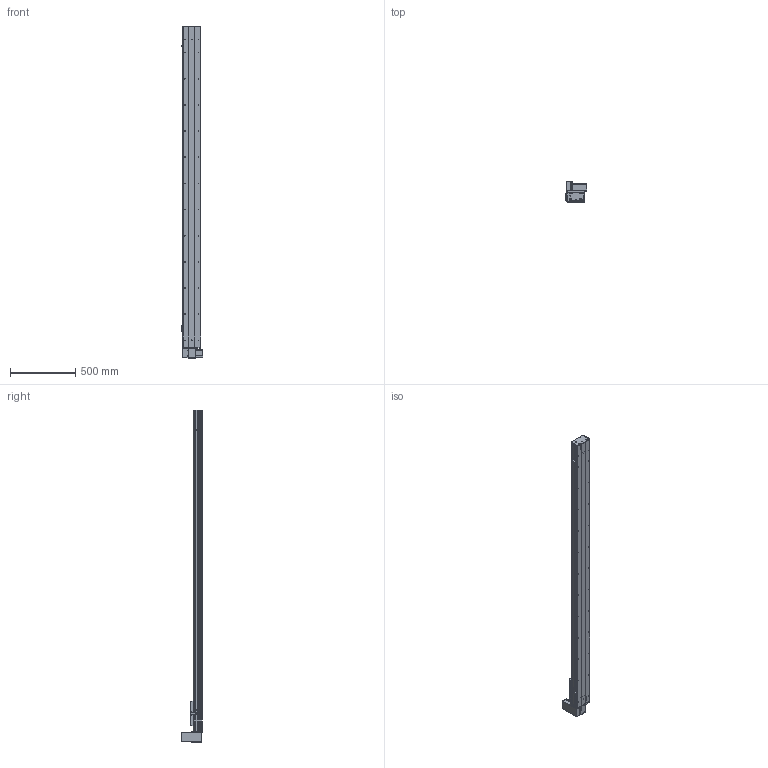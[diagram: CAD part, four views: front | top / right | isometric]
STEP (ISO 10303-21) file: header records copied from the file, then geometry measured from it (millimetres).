
FILE_DESCRIPTION (( 'STEP AP203' ), '1' );
FILE_NAME ('Y135CB-D90-S2150-UR-P400W.STEP', '2020-02-18T06:28:16', ( '微软用户' ), ( '微软中国' ), 'SwSTEP 2.0', 'SolidWorks 2017', '' );
FILE_SCHEMA (( 'CONFIG_CONTROL_DESIGN' ));
Length unit declared in the file: millimetre
Products named in the file (18): 0B-埴倛裔啣; 5C--俋欶; 0B-源倛裔啣; C-雄赽釱--; 0B-萇儂楊擘啣; Y10B--々湍喘謫眊--666; san松下电机400不带刹车----; Y10B-耜蚾蟀諉啣----; 5CB --掛极耜裔啣-; 00B-俋欶BM--; C-詩湍揤踡え-陔; Y135CB-D90-S2150-UR-P400W; Y135CB-耜裔; 135CB--詩湍-CE; 135CB---遴掛极.-; Y100-135俋离換覜ん--; 35CB---喘謫眊楊擘啣; Y135C-陔俋离換覜結え-
Assembly tree (21 placements, depth 2):
  Y135CB-D90-S2150-UR-P400W
    Y135CB-耜裔
    135CB---遴掛极.-
    35CB---喘謫眊楊擘啣
    0B-埴倛裔啣
    0B-源倛裔啣
    0B-萇儂楊擘啣
    san松下电机400不带刹车----
    5CB --掛极耜裔啣-  x2
    C-詩湍揤踡え-陔  x2
    135CB--詩湍-CE
    Y100-135俋离換覜ん--  x3
    Y135C-陔俋离換覜結え-
    5C--俋欶
    C-雄赽釱--
    Y10B--々湍喘謫眊--666
    Y10B-耜蚾蟀諉啣----
    00B-俋欶BM--
Bounding box: 167.5 x 158.7 x 2538 mm (x, y, z)
Volume: 7372843.7 mm3; surface area: 2915146.5 mm2
Topology: 21 solids, 21 shells, 969 faces, 2635 edges, 1746 vertices
Faces by surface type: cylinder 497, plane 456, cone 16
Entity records: 30561 total; most frequent: DIRECTION 5079, CARTESIAN_POINT 5076, ORIENTED_EDGE 4746, EDGE_CURVE 2373, AXIS2_PLACEMENT_3D 1861, VERTEX_POINT 1574, LINE 1357, VECTOR 1357
